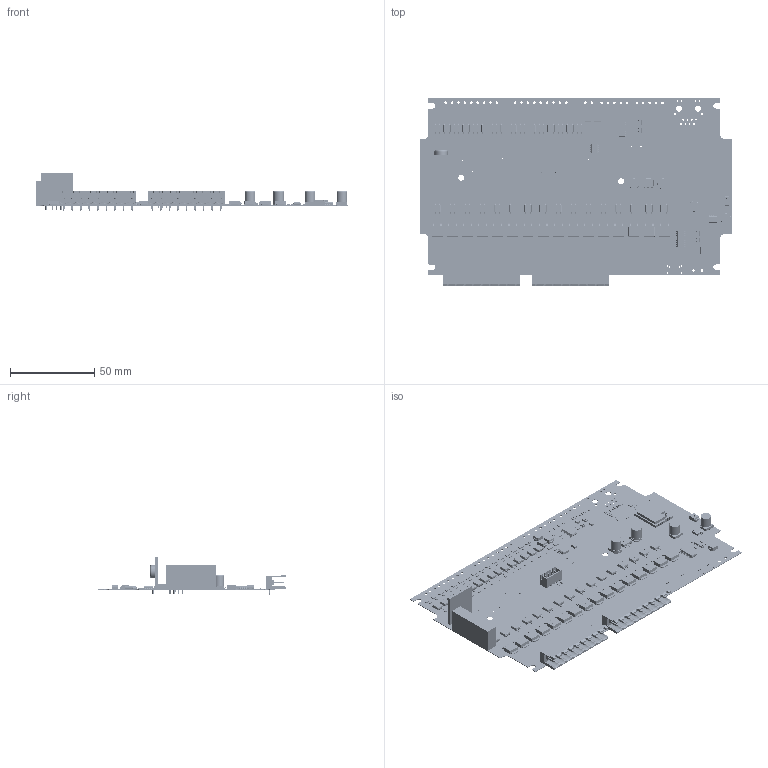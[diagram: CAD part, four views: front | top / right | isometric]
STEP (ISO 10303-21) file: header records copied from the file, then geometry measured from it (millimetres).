
FILE_DESCRIPTION(('Open CASCADE Model'),'2;1');
FILE_NAME('Open CASCADE Shape Model','2026-02-25T18:23:56',('Author'),( 'Open CASCADE'),'Open CASCADE STEP processor 6.8','Open CASCADE 6.8' ,'Unknown');
FILE_SCHEMA(('AUTOMOTIVE_DESIGN { 1 0 10303 214 1 1 1 1 }'));
Length unit declared in the file: millimetre
Products named in the file (209): PCB; Board; Open CASCADE STEP translator 6.8 1.1.1; R160; User_Library-RES_1609-0603; R159; R158; R157; C3; User_Library-0603_SMD_Capacitor; C4; C5; C13; C14; C15; C16; C17; C18; C19; D9; DO-214AA; D21; E2; User_Library-CC0607; E3; E4; L2; L4; P2; 433M_R; P4; EDGE-508-9P; P5; P7; 433M_T; P19; XH2_54-4P-AWP; Q1; SOT-23-3; Q2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
Assembly tree (365 placements, depth 4):
  PCB
    Board
      Open CASCADE STEP translator 6.8 1.1.1
    R160
      User_Library-RES_1609-0603
    R159
      User_Library-RES_1609-0603
    R158
      User_Library-RES_1609-0603
    R157
      User_Library-RES_1609-0603
    C3
      User_Library-0603_SMD_Capacitor
    C4
      User_Library-0603_SMD_Capacitor
    C5
      User_Library-0603_SMD_Capacitor
    C13
      User_Library-0603_SMD_Capacitor
    C14
      User_Library-0603_SMD_Capacitor
    C15
      User_Library-0603_SMD_Capacitor
    C16
      User_Library-0603_SMD_Capacitor
    C17
      User_Library-0603_SMD_Capacitor
    C18
      User_Library-0603_SMD_Capacitor
    C19
      User_Library-0603_SMD_Capacitor
    D9
      DO-214AA
    D21
      DO-214AA
    E2
      User_Library-CC0607
    E3
      User_Library-CC0607
    E4
      User_Library-CC0607
    L2
      User_Library-RES_1609-0603
    L4
      User_Library-RES_1609-0603
    P2
      433M_R
    P4
      EDGE-508-9P
    P5
      EDGE-508-9P
    P7
      433M_T
    P19
      XH2_54-4P-AWP
    Q1
      SOT-23-3
    Q2
      SOT-23-3
    Q3
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Bounding box: 185.64 x 112.11 x 22.5 mm (x, y, z)
Volume: 20843.9 mm3; surface area: 57627 mm2
Topology: 1331 solids, 1331 shells, 29058 faces, 69842 edges, 44750 vertices
Faces by surface type: plane 17396, bspline 7867, cylinder 3211, sphere 480, cone 70, torus 34
Full cylindrical faces by diameter (mm): 0.68 x2, 0.8 x6, 0.813 x4, 0.9 x7, 0.914 x4, 1.016 x8, 1.5 x30, 1.6 x20, 1.651 x2, 3.5 x2, 3.6 x2
Entity records: 185627 total; most frequent: CARTESIAN_POINT 73488, ORIENTED_EDGE 20014, DIRECTION 17332, EDGE_CURVE 10007, LINE 7152, VECTOR 7152, VERTEX_POINT 6366, AXIS2_PLACEMENT_3D 5090
